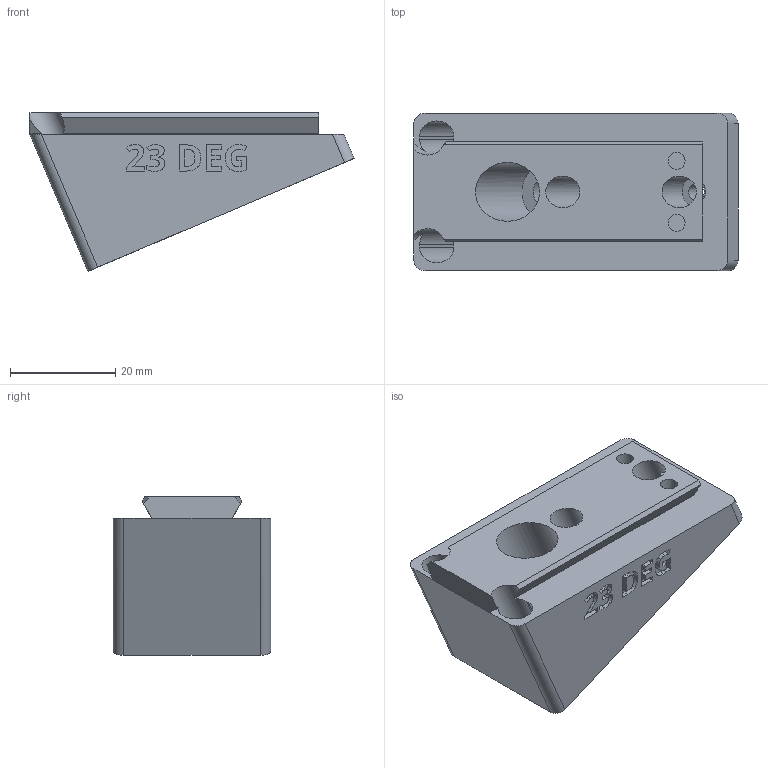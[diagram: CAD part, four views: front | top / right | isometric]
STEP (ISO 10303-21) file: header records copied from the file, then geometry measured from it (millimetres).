
FILE_DESCRIPTION(/* description */ ('STEP AP242 Edition 2','CAx-IF Rec.Pracs.---Representation and Presentation of Product Manufacturing Information (PMI)---4.0---2014-10-13','CAx-IF Rec.Pracs.---3D Tessellated Geometry---0.4---2014-09-14','2;1','CAx-IF Rec.Pracs.---User Defined Attributes---1.5---2016-08-15'),/* implementation_level */ '2;1');
FILE_NAME(/* name */ 'Camera Wedges - CAMERA MOUNTING WEDGE, POS, 23 DEG',/* time_stamp */ '2026-07-08T20:38:41Z',/* author */ (''),/* organization */ (''),/* preprocessor_version */ 'ST-DEVELOPER v20',/* originating_system */ 'ONSHAPE BY PTC INC, 1.217',/* authorisation */ ' ');
FILE_SCHEMA (('AP242_MANAGED_MODEL_BASED_3D_ENGINEERING_MIM_LF { 1 0 10303 442 3 1 4 }'));
Length unit declared in the file: metre
Products named in the file (1): CAMERA MOUNTING WEDGE, POS, 23 DEG
Bounding box: 61.7 x 30 x 30.19 mm (x, y, z)
Volume: 25885.3 mm3; surface area: 9635.7 mm2
Topology: 1 solids, 1 shells, 275 faces, 769 edges, 513 vertices
Faces by surface type: plane 137, bspline 80, cylinder 58
Full cylindrical faces by diameter (mm): 3.2 x4, 6 x2, 6.4 x1, 11.2 x1
Entity records: 9080 total; most frequent: CARTESIAN_POINT 2424, ORIENTED_EDGE 1516, DIRECTION 1120, EDGE_CURVE 758, VERTEX_POINT 510, LINE 468, VECTOR 468, AXIS2_PLACEMENT_3D 326
